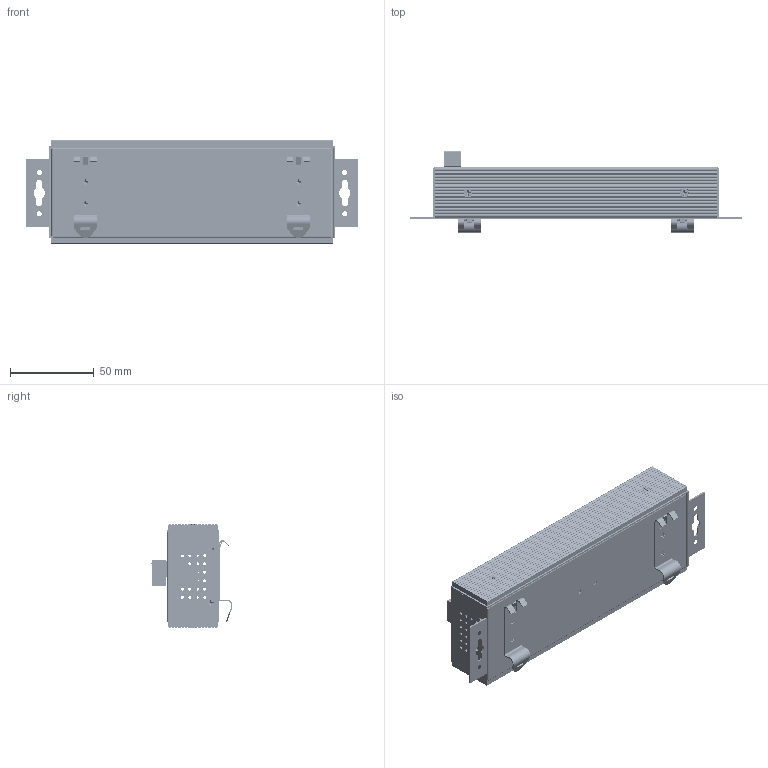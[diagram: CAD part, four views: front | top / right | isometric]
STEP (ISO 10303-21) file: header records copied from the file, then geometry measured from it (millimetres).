
FILE_DESCRIPTION(/* description */ (''),/* implementation_level */ '2;1');
FILE_NAME(/* name */ 'CG-G110PHHT v1.step',/* time_stamp */ '2023-11-28T14:21:54-05:00',/* author */ (''),/* organization */ (''),/* preprocessor_version */ 'ST-DEVELOPER v20',/* originating_system */ 'Autodesk Translation Framework v12.14.0.127',/* authorisation */ '');
FILE_SCHEMA (('AUTOMOTIVE_DESIGN { 1 0 10303 214 3 1 1 }'));
Products named in the file (14): CG-G110PHHT; Component3; Component4; Phoenix connector EDZ950/XX TERMINAL BLOCK PLUGGABLE PLUG v6; DINRCLP3X v12; DINRCLP3X v12 (1); DINRCLP3X; M3X0.5 China 120ang METRIC 18-8 SS FLAT HEAD PHIL MACHINE SCREW v2 (1
); Component42; HHT-HeatSink-3_Long; HHT-HeatSink-3_Long v1(Mirror); M3x0.5.5 China 120ang METRIC 18-8 SS FLAT HEAD PHIL MACHINE SCREW v2; M3x0.5.5 China 120ang METRIC 18-8 SS FLAT HEAD PHIL MACHINE SCREW v2 
v1(Mirror); M3x0.5.5 China 120ang METRIC 18-8 SS FLAT HEAD PHIL MACHINE SCREW v2 
v1(Mirror) (1)
Assembly tree (17 placements, depth 3):
  CG-G110PHHT
    Component3
      Component4
    Phoenix connector EDZ950/XX TERMINAL BLOCK PLUGGABLE PLUG v6
    DINRCLP3X v12
      DINRCLP3X
      M3X0.5 China 120ang METRIC 18-8 SS FLAT HEAD PHIL MACHINE SCREW v2 (1
)  x2
    DINRCLP3X v12 (1)
      DINRCLP3X
      M3X0.5 China 120ang METRIC 18-8 SS FLAT HEAD PHIL MACHINE SCREW v2 (1
)  x2
    Component42
    HHT-HeatSink-3_Long
    HHT-HeatSink-3_Long v1(Mirror)
    M3x0.5.5 China 120ang METRIC 18-8 SS FLAT HEAD PHIL MACHINE SCREW v2
    M3x0.5.5 China 120ang METRIC 18-8 SS FLAT HEAD PHIL MACHINE SCREW v2 
v1(Mirror)
    M3x0.5.5 China 120ang METRIC 18-8 SS FLAT HEAD PHIL MACHINE SCREW v2 
v1(Mirror) (1)
Bounding box: 197.9 x 48.3 x 62 mm (x, y, z)
Volume: 108357.2 mm3; surface area: 134089.7 mm2
Topology: 25 solids, 33 shells, 8108 faces, 23786 edges, 15472 vertices
Faces by surface type: plane 5913, cylinder 1937, cone 164, bspline 51, sphere 43
Full cylindrical faces by diameter (mm): 1.6 x2, 1.75 x58, 1.85 x1, 2.02 x32, 2.1 x22, 2.323 x24, 2.5 x4, 2.529 x6, 2.845 x34, 2.998 x1, 3 x55, 3.1 x1, 3.5 x4, 3.556 x4, 3.643 x1, 3.86 x2, 4.191 x4
Entity records: 280257 total; most frequent: CARTESIAN_POINT 65835, ORIENTED_EDGE 46492, DIRECTION 42334, EDGE_CURVE 23246, LINE 18634, VECTOR 18634, VERTEX_POINT 15149, AXIS2_PLACEMENT_3D 11850
